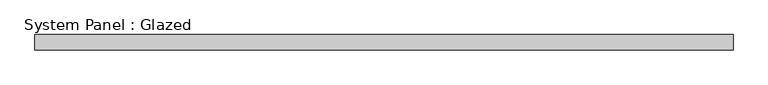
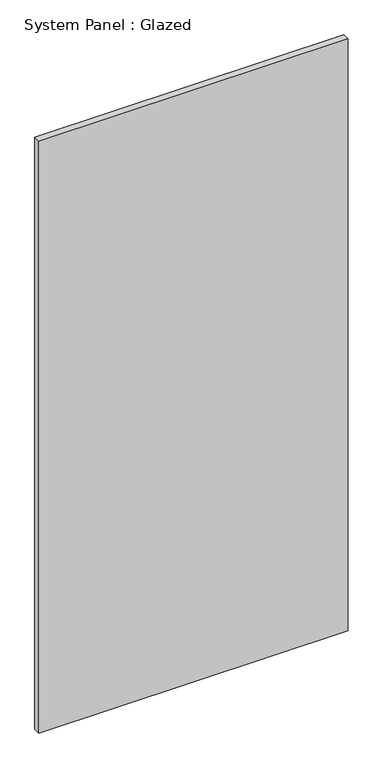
"""IFC4 building model written with IfcOpenShell, lengths in millimetres: plate geometry, System Panel : Glazed."""

from ifc_helpers import new_model, si_unit, origin, origin_with_axes, place, context, project, spatial, polyline, outline, extrude, source, transform, mapped, element, save


def system_panel_glazed_785ef731(model_context):
    return source(origin(), model_context, "Body", "SweptSolid", [
        extrude(outline(polyline([(575.0000001, 24.5), (-575.0000001, 24.5), (-575.0000001, 49.5), (575.0000001, 49.5), (575.0000001, 24.5)])), origin_with_axes(), (0.0, 0.0, 1.0), 2325.0),
    ])


if __name__ == "__main__":
    model = new_model("IFC4")
    model_context = context("Model", 3, world=origin())
    ifc_project = project(units=[si_unit("LENGTHUNIT", "METRE", prefix="MILLI")], contexts=[model_context])
    site = spatial("IfcSite", under=ifc_project)
    building = spatial("IfcBuilding", under=site)
    placement = place(None, origin())
    system_panel_glazed_shape = system_panel_glazed_785ef731(model_context)
    element("IfcPlate", 1, ObjectType="System Panel : Glazed", at=placement, inside=building, context=model_context, shape_type="MappedRepresentation", body=[
        mapped(system_panel_glazed_shape, transform((0.0, 0.0, 0.0), x_axis=(1.0, 0.0, 0.0), y_axis=(0.0, 1.0, 0.0), z_axis=(0.0, 0.0, 1.0))),
    ])
    save(model, "model.ifc")
